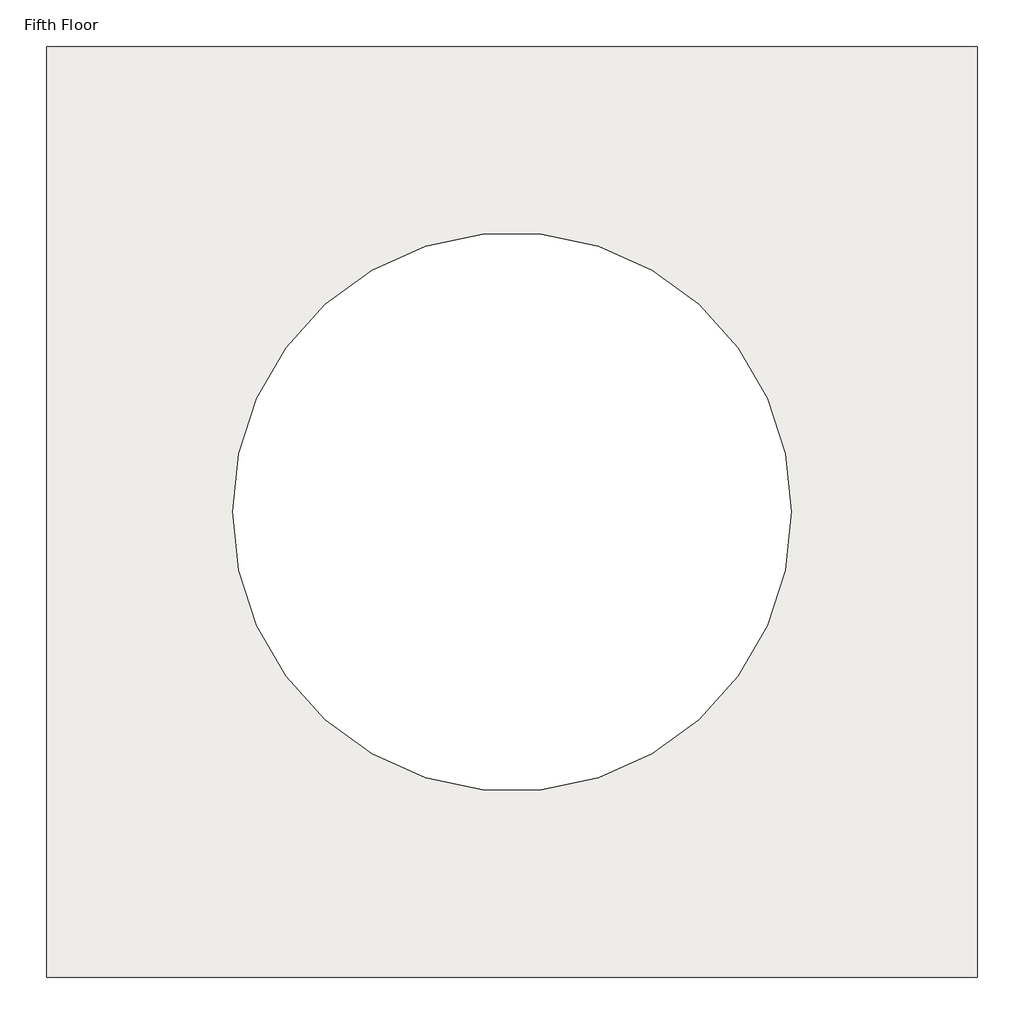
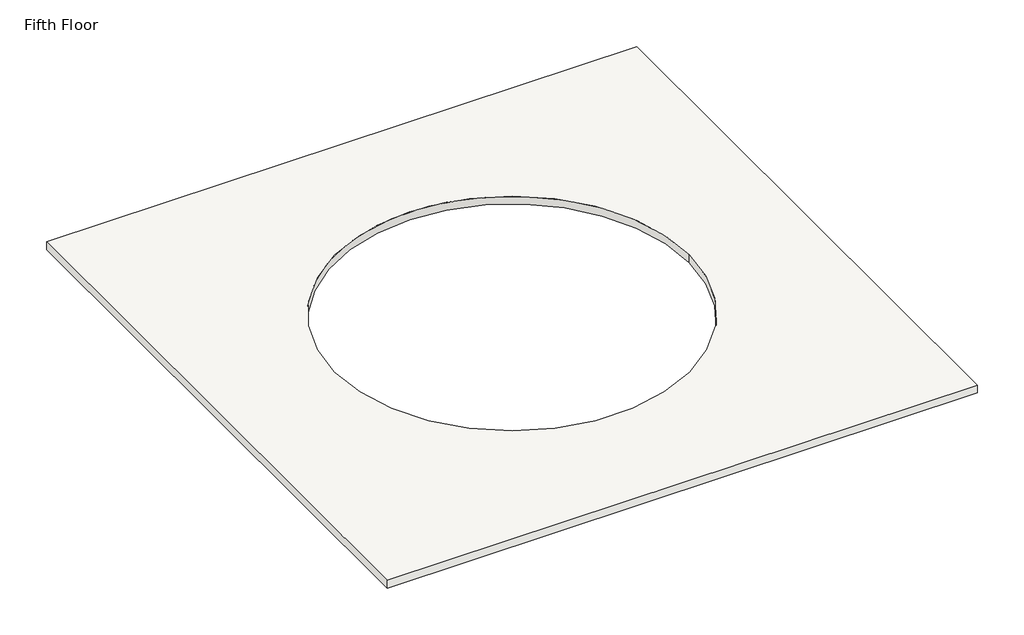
# One storey: 1 slab.
"""IFC4 building model written with IfcOpenShell, lengths in millimetres."""

import ifcopenshell
import ifcopenshell.guid

model = None  # the IFC model being written
_history = None  # IfcOwnerHistory: only IFC2X3 demands one
_inside = {}  # id of a spatial element -> (the spatial element, [elements in it])
_under = {}  # id of a project, library or spatial element -> (it, [spatial elements below it])
_declared = {}  # id of a project -> (the project, [libraries it declares])
_typed = {}  # id of a type object -> (the type object, [elements of that type])
_made_of = {}  # id of a material, layer set ... -> (it, [elements and type objects made of it])


def new_model(schema):
    """Start an empty IFC model of exactly this schema.

    Asked for "IFC4X3", IfcOpenShell would pick the latest addendum, in which some entities
    have other attributes; the version numbers below select the first issue.
    IFC2X3 requires an IfcOwnerHistory on every rooted entity: one is made here for all.
    """
    global model, _history
    if schema == "IFC4X3":
        model = ifcopenshell.file(schema_version=(4, 3, 0, 0))
    else:
        model = ifcopenshell.file(schema=schema)
    _inside.clear()
    _under.clear()
    _declared.clear()
    _typed.clear()
    _made_of.clear()
    _history = None
    if model.schema == "IFC2X3":
        org = make("IfcOrganization", Name="unknown")
        user = make(
            "IfcPersonAndOrganization",
            ThePerson=make("IfcPerson", FamilyName="unknown"),
            TheOrganization=org,
        )
        app = make(
            "IfcApplication",
            ApplicationDeveloper=org,
            Version="unknown",
            ApplicationFullName="unknown",
            ApplicationIdentifier="unknown",
        )
        _history = make(
            "IfcOwnerHistory",
            OwningUser=user,
            OwningApplication=app,
            ChangeAction="ADDED",
            CreationDate=0,
        )
    return model


def make(cls, **values):
    """One entity of the class cls with the attributes given. An attribute that is None is left unset."""
    return model.create_entity(
        cls, **{name: value for name, value in values.items() if value is not None}
    )


def rooted(cls, **values):
    """An entity with a GlobalId (a new one), such as an element, a storey or a relation."""
    return make(cls, GlobalId=ifcopenshell.guid.new(), OwnerHistory=_history, **values)


def si_unit(unit_type, name, prefix=None):
    """IfcSIUnit, for example si_unit("LENGTHUNIT", "METRE", prefix="MILLI")."""
    return make("IfcSIUnit", UnitType=unit_type, Prefix=prefix, Name=name)


def assignment(units):
    """IfcUnitAssignment: the units of a project."""
    return None if units is None else make("IfcUnitAssignment", Units=units)


def point(xyz):
    """IfcCartesianPoint."""
    return None if xyz is None else make("IfcCartesianPoint", Coordinates=xyz)


def direction(xyz):
    """IfcDirection."""
    return None if xyz is None else make("IfcDirection", DirectionRatios=xyz)


def frame(location, z_axis=None, x_axis=None):
    """IfcAxis2Placement3D, a coordinate frame: its origin and axes. An axis left out is left unset."""
    return make(
        "IfcAxis2Placement3D",
        Location=point(location),
        Axis=direction(z_axis),
        RefDirection=direction(x_axis),
    )


def frame_2d(location, x_axis=None):
    """IfcAxis2Placement2D, a coordinate frame in the plane: its origin and x axis."""
    return make(
        "IfcAxis2Placement2D", Location=point(location), RefDirection=direction(x_axis)
    )


def origin():
    """The frame at (0, 0, 0) with its axes left unset."""
    return frame((0.0, 0.0, 0.0))


def place(relative_to, where):
    """IfcLocalPlacement: puts the frame where relative to a parent placement (None: the world)."""
    return make(
        "IfcLocalPlacement", PlacementRelTo=relative_to, RelativePlacement=where
    )


def context(
    kind, dimensions, precision=None, world=None, true_north=None, identifier=None
):
    """IfcGeometricRepresentationContext, for example the 3D "Model" context."""
    return make(
        "IfcGeometricRepresentationContext",
        ContextIdentifier=identifier,
        ContextType=kind,
        CoordinateSpaceDimension=dimensions,
        Precision=precision,
        WorldCoordinateSystem=world,
        TrueNorth=true_north,
    )


def project(units=None, contexts=None):
    """IfcProject with its units and contexts."""
    return rooted(
        "IfcProject",
        Name="project",
        RepresentationContexts=contexts,
        UnitsInContext=assignment(units),
    )


def spatial(cls, under=None, at=None, **own):
    """A site, building, storey or space (cls), placed at a placement, below another one or the project."""
    s = rooted(cls, ObjectPlacement=at, **own)
    if under is not None:
        _under.setdefault(under.id(), (under, []))[1].append(s)
    return s


def polyline(points):
    """IfcPolyline through the points."""
    return make("IfcPolyline", Points=[point(p) for p in points])


def circle_curve(where, radius):
    """IfcCircle in the frame where."""
    return make("IfcCircle", Position=where, Radius=radius)


def trimmed(basis, trim1, trim2, sense, master):
    """IfcTrimmedCurve: the piece of a basis curve between two trims."""
    return make(
        "IfcTrimmedCurve",
        BasisCurve=basis,
        Trim1=trim1,
        Trim2=trim2,
        SenseAgreement=sense,
        MasterRepresentation=master,
    )


def segment(curve, same_sense, transition):
    """IfcCompositeCurveSegment."""
    return make(
        "IfcCompositeCurveSegment",
        Transition=transition,
        SameSense=same_sense,
        ParentCurve=curve,
    )


def composite_curve(segments, self_intersect=None):
    """IfcCompositeCurve: segments joined end to end."""
    return make("IfcCompositeCurve", Segments=segments, SelfIntersect=self_intersect)


def outline(outer, holes=None, kind="AREA"):
    """IfcArbitraryClosedProfileDef: a profile drawn as a closed curve; with holes, ...WithVoids."""
    if holes is None:
        return make("IfcArbitraryClosedProfileDef", ProfileType=kind, OuterCurve=outer)
    return make(
        "IfcArbitraryProfileDefWithVoids",
        ProfileType=kind,
        OuterCurve=outer,
        InnerCurves=holes,
    )


def extrude(swept, where, along, depth):
    """IfcExtrudedAreaSolid: the profile swept, set in the frame where, extruded along a direction by depth."""
    return make(
        "IfcExtrudedAreaSolid",
        SweptArea=swept,
        Position=where,
        ExtrudedDirection=direction(along),
        Depth=depth,
    )


def shape(context_of_items, identifier, shape_type, items):
    """IfcShapeRepresentation: the items that make up one representation, for example the "Body"."""
    return make(
        "IfcShapeRepresentation",
        ContextOfItems=context_of_items,
        RepresentationIdentifier=identifier,
        RepresentationType=shape_type,
        Items=items,
    )


def made_of(thing, what):
    """Note that an element or type object is made of a material, layer set ...; save() writes the relation."""
    if what is not None:
        _made_of.setdefault(what.id(), (what, []))[1].append(thing)
    return thing


def element(
    cls,
    number,
    at=None,
    inside=None,
    cuts=None,
    type_object=None,
    material=None,
    context=None,
    identifier="Body",
    shape_type=None,
    held_by="IfcProductDefinitionShape",
    body=None,
    shapes=None,
    **own,
):
    """One element of the class cls, such as IfcWall. Its Tag is "e" and its number.

    at: its placement. inside: the storey or other place that contains it. cuts: it is an
    opening in that element (IfcRelVoidsElement). A single representation is given by context,
    identifier, shape_type and body (its items); several are given by shapes. held_by: the class
    of the entity that holds the representations. save() writes the other relations.
    """
    e = rooted(cls, Tag="e%d" % number, ObjectPlacement=at, **own)
    if body is not None:
        shapes = [shape(context, identifier, shape_type, body)]
    if shapes is not None:
        e.Representation = make(held_by, Representations=shapes)
    if inside is not None:
        _inside.setdefault(inside.id(), (inside, []))[1].append(e)
    if cuts is not None:
        rooted(
            "IfcRelVoidsElement", RelatingBuildingElement=cuts, RelatedOpeningElement=e
        )
    if type_object is not None:
        _typed.setdefault(type_object.id(), (type_object, []))[1].append(e)
    return made_of(e, material)


def aggregate(whole, parts):
    """IfcRelAggregates: a whole, such as a stair, and the parts it consists of."""
    return rooted("IfcRelAggregates", RelatingObject=whole, RelatedObjects=parts)


def save(model, path):
    """Write the relations noted so far, then the file.

    IfcRelAggregates (storeys below a building ...), IfcRelContainedInSpatialStructure (elements
    in a storey), IfcRelDefinesByType, IfcRelAssociatesMaterial and IfcRelDeclares: one each for
    every whole, place, type object, material and project.
    """
    for whole, parts in _under.values():
        aggregate(whole, parts)
    for where, things in _inside.values():
        rooted(
            "IfcRelContainedInSpatialStructure",
            RelatedElements=things,
            RelatingStructure=where,
        )
    for kind, things in _typed.values():
        rooted("IfcRelDefinesByType", RelatedObjects=things, RelatingType=kind)
    for what, things in _made_of.values():
        rooted("IfcRelAssociatesMaterial", RelatedObjects=things, RelatingMaterial=what)
    for by, libraries in _declared.values():
        rooted("IfcRelDeclares", RelatingContext=by, RelatedDefinitions=libraries)
    model.write(path)


model = new_model("IFC4")

# Units and contexts
model_context = context("Model", 3, world=origin())
ifc_project = project(units=[si_unit("LENGTHUNIT", "METRE", prefix="MILLI")], contexts=[model_context])

# Site, building, storey
site = spatial("IfcSite", under=ifc_project)
building = spatial("IfcBuilding", under=site)
storey = spatial("IfcBuildingStorey", under=building, Name="Fifth Floor", Elevation=12192.0)

# Slab
placement = place(None, origin())
element("IfcSlab", 1, ObjectType="160mm Concrete With 50mm Metal Deck", at=placement, inside=storey, context=model_context, shape_type="SweptSolid", body=[
    extrude(outline(polyline([(8463.0350085, 7792.852658), (8463.0350085, -7447.147342), (-6776.9649915, -7447.147342), (-6776.9649915, 7792.852658), (8463.0350085, 7792.852658)]), holes=[composite_curve([segment(trimmed(circle_curve(frame_2d((843.0350085, 172.852658)), 4572.0), [point((5415.0350085, 172.852658))], [point((-3728.9649915, 172.852658))], True, "CARTESIAN"), True, "CONTINUOUS"), segment(trimmed(circle_curve(frame_2d((843.0350085, 172.852658)), 4572.0), [point((-3728.9649915, 172.852658))], [point((5415.0350085, 172.852658))], True, "CARTESIAN"), True, "CONTINUOUS")], self_intersect=False)]), frame((0.0, 0.0, 11982.0), z_axis=(0.0, 0.0, 1.0), x_axis=(1.0, 0.0, 0.0)), (0.0, 0.0, 1.0), 210.0),
])

save(model, "model.ifc")
